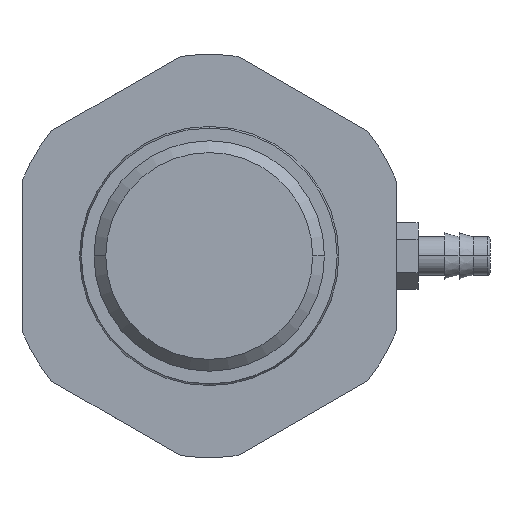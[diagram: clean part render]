
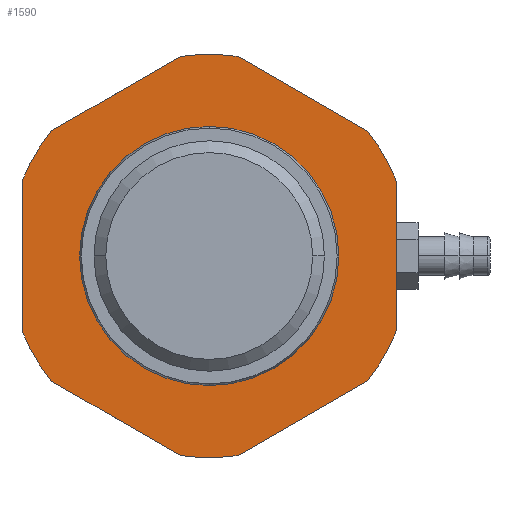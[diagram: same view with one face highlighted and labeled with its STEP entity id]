
A CAD part, left-side view. The second image highlights one B-rep face of the part: STEP entity #1590.
In plain terms, the highlighted planar face has unit normal (-1, 0, 0).
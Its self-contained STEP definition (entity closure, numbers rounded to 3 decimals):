
#1436=CARTESIAN_POINT('',(-2.875,0.475,0.0));
#1437=VERTEX_POINT('',#1436);
#1453=CARTESIAN_POINT('',(-2.875,-0.475,0.));
#1454=VERTEX_POINT('',#1453);
#1461=CARTESIAN_POINT('',(-2.875,0.,0.0));
#1462=DIRECTION('',(1.0,0.0,0.0));
#1463=DIRECTION('',(0.0,1.0,0.0));
#1464=AXIS2_PLACEMENT_3D('',#1461,#1462,#1463);
#1465=CIRCLE('',#1464,0.475);
#1466=EDGE_CURVE('',#1437,#1454,#1465,.T.);
#1471=CARTESIAN_POINT('',(-2.875,0.0,0.0));
#1472=DIRECTION('',(-1.0,0.0,0.0));
#1473=DIRECTION('',(0.0,0.0,1.0));
#1474=AXIS2_PLACEMENT_3D('',#1471,#1472,#1473);
#1475=PLANE('',#1474);
#1476=CARTESIAN_POINT('',(-2.875,-0.125,-0.866));
#1477=VERTEX_POINT('',#1476);
#1478=CARTESIAN_POINT('',(-2.875,0.125,-0.866));
#1479=VERTEX_POINT('',#1478);
#1480=CARTESIAN_POINT('',(-2.875,0.0,0.0));
#1481=DIRECTION('',(1.0,0.0,0.0));
#1482=DIRECTION('',(0.0,0.0,-1.0));
#1483=AXIS2_PLACEMENT_3D('',#1480,#1481,#1482);
#1484=CIRCLE('',#1483,0.875);
#1485=EDGE_CURVE('',#1477,#1479,#1484,.T.);
#1486=ORIENTED_EDGE('',*,*,#1485,.F.);
#1487=CARTESIAN_POINT('',(-2.875,-0.688,-0.541));
#1488=VERTEX_POINT('',#1487);
#1489=CARTESIAN_POINT('',(-2.875,-0.688,-0.541));
#1490=DIRECTION('',(0.0,0.866,-0.5));
#1491=VECTOR('',#1490,0.65);
#1492=LINE('',#1489,#1491);
#1493=EDGE_CURVE('',#1488,#1477,#1492,.T.);
#1494=ORIENTED_EDGE('',*,*,#1493,.F.);
#1495=CARTESIAN_POINT('',(-2.875,-0.813,-0.325));
#1496=VERTEX_POINT('',#1495);
#1497=CARTESIAN_POINT('',(-2.875,0.,0.0));
#1498=DIRECTION('',(1.0,0.0,0.0));
#1499=DIRECTION('',(0.0,-0.866,-0.5));
#1500=AXIS2_PLACEMENT_3D('',#1497,#1498,#1499);
#1501=CIRCLE('',#1500,0.875);
#1502=EDGE_CURVE('',#1496,#1488,#1501,.T.);
#1503=ORIENTED_EDGE('',*,*,#1502,.F.);
#1504=CARTESIAN_POINT('',(-2.875,-0.813,0.325));
#1505=VERTEX_POINT('',#1504);
#1506=CARTESIAN_POINT('',(-2.875,-0.813,0.325));
#1507=DIRECTION('',(0.0,0.0,-1.0));
#1508=VECTOR('',#1507,0.65);
#1509=LINE('',#1506,#1508);
#1510=EDGE_CURVE('',#1505,#1496,#1509,.T.);
#1511=ORIENTED_EDGE('',*,*,#1510,.F.);
#1512=CARTESIAN_POINT('',(-2.875,-0.688,0.541));
#1513=VERTEX_POINT('',#1512);
#1514=CARTESIAN_POINT('',(-2.875,0.,0.0));
#1515=DIRECTION('',(1.0,0.0,0.0));
#1516=DIRECTION('',(0.0,-0.866,0.5));
#1517=AXIS2_PLACEMENT_3D('',#1514,#1515,#1516);
#1518=CIRCLE('',#1517,0.875);
#1519=EDGE_CURVE('',#1513,#1505,#1518,.T.);
#1520=ORIENTED_EDGE('',*,*,#1519,.F.);
#1521=CARTESIAN_POINT('',(-2.875,-0.125,0.866));
#1522=VERTEX_POINT('',#1521);
#1523=CARTESIAN_POINT('',(-2.875,-0.125,0.866));
#1524=DIRECTION('',(0.0,-0.866,-0.5));
#1525=VECTOR('',#1524,0.65);
#1526=LINE('',#1523,#1525);
#1527=EDGE_CURVE('',#1522,#1513,#1526,.T.);
#1528=ORIENTED_EDGE('',*,*,#1527,.F.);
#1529=CARTESIAN_POINT('',(-2.875,0.125,0.866));
#1530=VERTEX_POINT('',#1529);
#1531=CARTESIAN_POINT('',(-2.875,0.0,0.0));
#1532=DIRECTION('',(1.0,0.0,0.0));
#1533=DIRECTION('',(0.0,0.0,1.0));
#1534=AXIS2_PLACEMENT_3D('',#1531,#1532,#1533);
#1535=CIRCLE('',#1534,0.875);
#1536=EDGE_CURVE('',#1530,#1522,#1535,.T.);
#1537=ORIENTED_EDGE('',*,*,#1536,.F.);
#1538=CARTESIAN_POINT('',(-2.875,0.688,0.541));
#1539=VERTEX_POINT('',#1538);
#1540=CARTESIAN_POINT('',(-2.875,0.688,0.541));
#1541=DIRECTION('',(0.0,-0.866,0.5));
#1542=VECTOR('',#1541,0.65);
#1543=LINE('',#1540,#1542);
#1544=EDGE_CURVE('',#1539,#1530,#1543,.T.);
#1545=ORIENTED_EDGE('',*,*,#1544,.F.);
#1546=CARTESIAN_POINT('',(-2.875,0.813,0.325));
#1547=VERTEX_POINT('',#1546);
#1548=CARTESIAN_POINT('',(-2.875,0.0,0.0));
#1549=DIRECTION('',(1.0,0.0,0.0));
#1550=DIRECTION('',(0.0,0.866,0.5));
#1551=AXIS2_PLACEMENT_3D('',#1548,#1549,#1550);
#1552=CIRCLE('',#1551,0.875);
#1553=EDGE_CURVE('',#1547,#1539,#1552,.T.);
#1554=ORIENTED_EDGE('',*,*,#1553,.F.);
#1555=CARTESIAN_POINT('',(-2.875,0.813,-0.325));
#1556=VERTEX_POINT('',#1555);
#1557=CARTESIAN_POINT('',(-2.875,0.813,-0.325));
#1558=DIRECTION('',(0.0,0.0,1.0));
#1559=VECTOR('',#1558,0.65);
#1560=LINE('',#1557,#1559);
#1561=EDGE_CURVE('',#1556,#1547,#1560,.T.);
#1562=ORIENTED_EDGE('',*,*,#1561,.F.);
#1563=CARTESIAN_POINT('',(-2.875,0.687,-0.541));
#1564=VERTEX_POINT('',#1563);
#1565=CARTESIAN_POINT('',(-2.875,0.,0.0));
#1566=DIRECTION('',(1.0,0.0,0.0));
#1567=DIRECTION('',(0.0,0.866,-0.5));
#1568=AXIS2_PLACEMENT_3D('',#1565,#1566,#1567);
#1569=CIRCLE('',#1568,0.875);
#1570=EDGE_CURVE('',#1564,#1556,#1569,.T.);
#1571=ORIENTED_EDGE('',*,*,#1570,.F.);
#1572=CARTESIAN_POINT('',(-2.875,0.125,-0.866));
#1573=DIRECTION('',(0.0,0.866,0.5));
#1574=VECTOR('',#1573,0.65);
#1575=LINE('',#1572,#1574);
#1576=EDGE_CURVE('',#1479,#1564,#1575,.T.);
#1577=ORIENTED_EDGE('',*,*,#1576,.F.);
#1578=EDGE_LOOP('',(#1486,#1494,#1503,#1511,#1520,#1528,#1537,#1545,#1554,#1562,#1571,#1577));
#1579=FACE_OUTER_BOUND('',#1578,.T.);
#1580=ORIENTED_EDGE('',*,*,#1466,.T.);
#1581=CARTESIAN_POINT('',(-2.875,0.,0.0));
#1582=DIRECTION('',(1.0,0.0,0.0));
#1583=DIRECTION('',(0.0,1.0,0.0));
#1584=AXIS2_PLACEMENT_3D('',#1581,#1582,#1583);
#1585=CIRCLE('',#1584,0.475);
#1586=EDGE_CURVE('',#1454,#1437,#1585,.T.);
#1587=ORIENTED_EDGE('',*,*,#1586,.T.);
#1588=EDGE_LOOP('',(#1580,#1587));
#1589=FACE_BOUND('',#1588,.T.);
#1590=ADVANCED_FACE('',(#1579,#1589),#1475,.T.);
